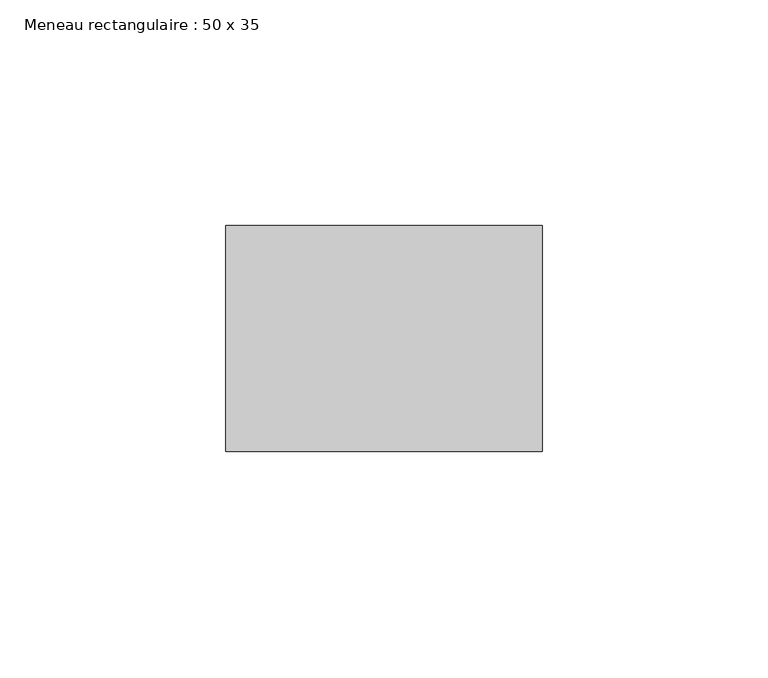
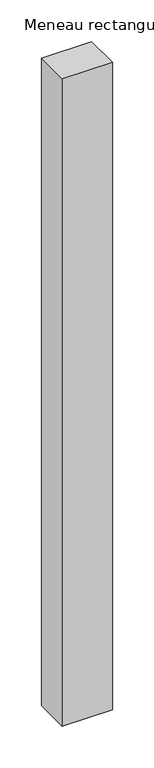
"""IFC4 building model written with IfcOpenShell, lengths in millimetres: member geometry, Meneau rectangulaire : 50 x 35."""

from ifc_helpers import new_model, si_unit, frame, origin, place, context, project, spatial, polyline, outline, extrude, source, transform, mapped, element, save


def meneau_rectangulaire_50_x_35_3019b4bd(model_context):
    return source(origin(), model_context, "Body", "SweptSolid", [
        extrude(outline(polyline([(0.0, 0.0), (0.0, -50.0), (-70.0, -50.0), (-70.0, 0.0), (0.0, 0.0)])), frame((0.0, 0.0, -951.2660599), z_axis=(0.0, 0.0, 1.0), x_axis=(1.0, 0.0, 0.0)), (0.0, 0.0, 1.0), 951.2660599),
    ])


if __name__ == "__main__":
    model = new_model("IFC4")
    model_context = context("Model", 3, world=origin())
    ifc_project = project(units=[si_unit("LENGTHUNIT", "METRE", prefix="MILLI")], contexts=[model_context])
    site = spatial("IfcSite", under=ifc_project)
    building = spatial("IfcBuilding", under=site)
    placement = place(None, origin())
    meneau_rectangulaire_50_x_35_shape = meneau_rectangulaire_50_x_35_3019b4bd(model_context)
    element("IfcMember", 1, ObjectType="Meneau rectangulaire : 50 x 35", at=placement, inside=building, context=model_context, shape_type="MappedRepresentation", body=[
        mapped(meneau_rectangulaire_50_x_35_shape, transform((0.0, 0.0, 0.0), x_axis=(1.0, 0.0, 0.0), y_axis=(0.0, 1.0, 0.0), z_axis=(0.0, 0.0, 1.0))),
    ])
    save(model, "model.ifc")
